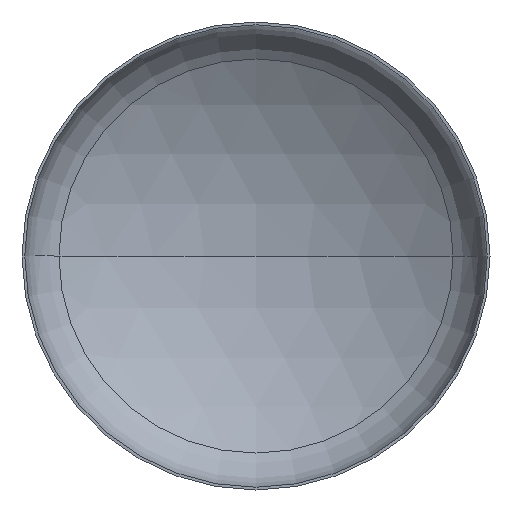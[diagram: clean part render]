
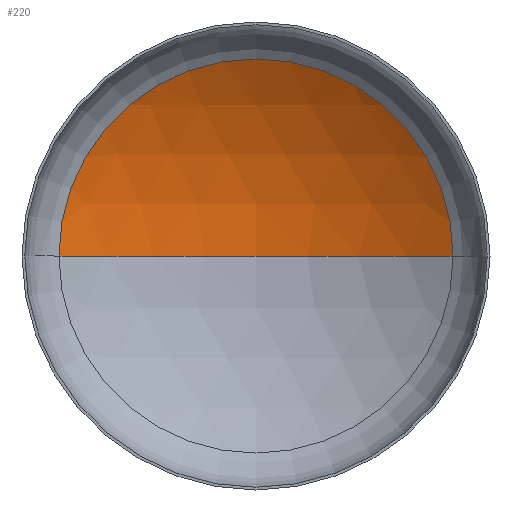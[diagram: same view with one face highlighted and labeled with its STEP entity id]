
A CAD part, front view. The second image highlights one B-rep face of the part: STEP entity #220.
In plain terms, the highlighted spherical face has radius 5600 mm.
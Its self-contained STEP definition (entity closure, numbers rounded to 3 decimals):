
#2 = VERTEX_POINT ( 'NONE', #247 ) ;
#5 = DIRECTION ( 'NONE',  ( -1., 0., 0. ) ) ;
#8 = CIRCLE ( 'NONE', #56, 5600. ) ;
#20 = AXIS2_PLACEMENT_3D ( 'NONE', #221, #367, #363 ) ;
#25 = DIRECTION ( 'NONE',  ( 1., 0., 0. ) ) ;
#40 = VERTEX_POINT ( 'NONE', #242 ) ;
#54 = AXIS2_PLACEMENT_3D ( 'NONE', #374, #315, #100 ) ;
#56 = AXIS2_PLACEMENT_3D ( 'NONE', #227, #177, #5 ) ;
#62 = AXIS2_PLACEMENT_3D ( 'NONE', #128, #233, #25 ) ;
#93 = ORIENTED_EDGE ( 'NONE', *, *, #156, .T. ) ;
#100 = DIRECTION ( 'NONE',  ( 1., 0., 0. ) ) ;
#115 = VERTEX_POINT ( 'NONE', #192 ) ;
#128 = CARTESIAN_POINT ( 'NONE',  ( 0., 1048.305, 0. ) ) ;
#156 = EDGE_CURVE ( 'NONE', #40, #115, #203, .T. ) ;
#159 = EDGE_CURVE ( 'NONE', #2, #40, #8, .T. ) ;
#160 = EDGE_CURVE ( 'NONE', #2, #115, #269, .T. ) ;
#177 = DIRECTION ( 'NONE',  ( 0., 0., -1. ) ) ;
#184 = EDGE_LOOP ( 'NONE', ( #249, #194, #93 ) ) ;
#192 = CARTESIAN_POINT ( 'NONE',  ( -2947.434, 1048.305, 0. ) ) ;
#193 = SPHERICAL_SURFACE ( 'NONE', #20, 5600. ) ;
#194 = ORIENTED_EDGE ( 'NONE', *, *, #159, .T. ) ;
#203 = CIRCLE ( 'NONE', #62, 2947.434 ) ;
#220 = ADVANCED_FACE ( 'NONE', ( #326 ), #193, .F. ) ;
#221 = CARTESIAN_POINT ( 'NONE',  ( 0., -3713.275, 0. ) ) ;
#227 = CARTESIAN_POINT ( 'NONE',  ( 0., -3713.275, 0. ) ) ;
#233 = DIRECTION ( 'NONE',  ( 0., -1., 0. ) ) ;
#242 = CARTESIAN_POINT ( 'NONE',  ( 2947.434, 1048.305, 0. ) ) ;
#247 = CARTESIAN_POINT ( 'NONE',  ( 0., 1886.725, 0. ) ) ;
#249 = ORIENTED_EDGE ( 'NONE', *, *, #160, .F. ) ;
#269 = CIRCLE ( 'NONE', #54, 5600. ) ;
#315 = DIRECTION ( 'NONE',  ( 0., 0., 1. ) ) ;
#326 = FACE_OUTER_BOUND ( 'NONE', #184, .T. ) ;
#363 = DIRECTION ( 'NONE',  ( -1., 0., 0. ) ) ;
#367 = DIRECTION ( 'NONE',  ( 0., 0., -1. ) ) ;
#374 = CARTESIAN_POINT ( 'NONE',  ( 0., -3713.275, 0. ) ) ;
